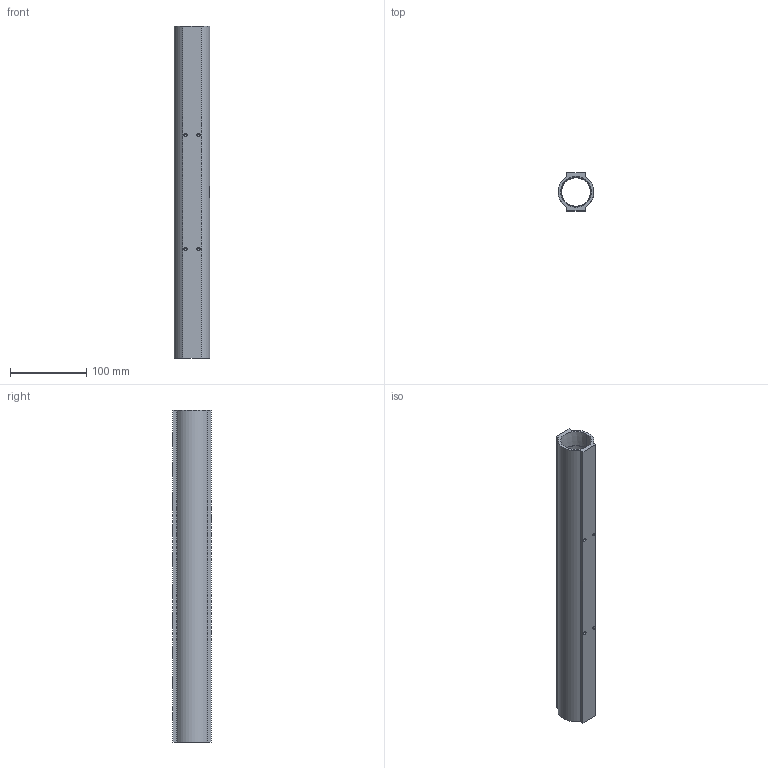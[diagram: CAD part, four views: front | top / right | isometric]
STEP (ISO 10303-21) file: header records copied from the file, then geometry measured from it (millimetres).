
FILE_DESCRIPTION (( 'STEP AP214' ), '1' );
FILE_NAME ('BWM10620R.STEP', '2022-03-15T05:41:11', ( '' ), ( '' ), 'SwSTEP 2.0', 'SolidWorks 2020', '' );
FILE_SCHEMA (( 'AUTOMOTIVE_DESIGN' ));
Length unit declared in the file: millimetre
Products named in the file (1): BWM10620R
Bounding box: 47 x 50 x 436 mm (x, y, z)
Volume: 297222 mm3; surface area: 125062.4 mm2
Topology: 1 solids, 1 shells, 226 faces, 607 edges, 398 vertices
Faces by surface type: plane 98, bspline 54, cylinder 42, cone 32
Entity records: 13063 total; most frequent: CARTESIAN_POINT 5872, ORIENTED_EDGE 1198, DIRECTION 787, EDGE_CURVE 599, VERTEX_POINT 398, LINE 293, VECTOR 293, EDGE_LOOP 271
